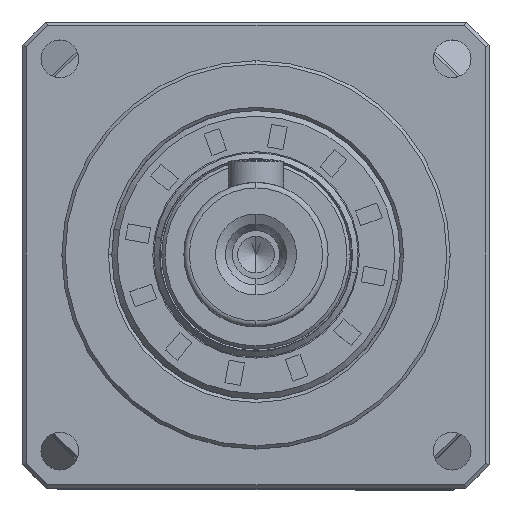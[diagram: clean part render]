
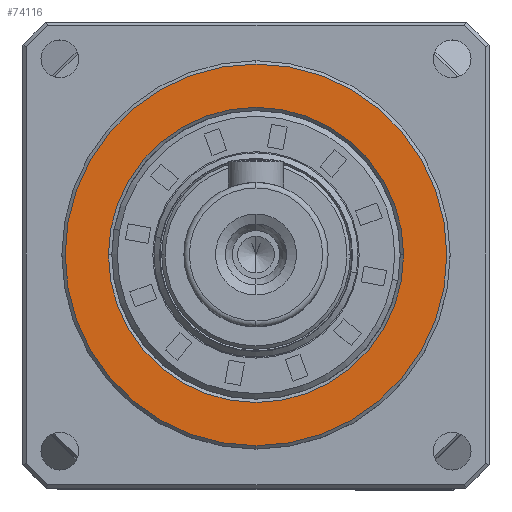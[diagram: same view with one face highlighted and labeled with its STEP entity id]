
A CAD part, top view. The second image highlights one B-rep face of the part: STEP entity #74116.
In plain terms, the highlighted planar face has unit normal (0, 0, 1).
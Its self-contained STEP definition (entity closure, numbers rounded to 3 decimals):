
#501 = FACE_BOUND ( 'NONE', #54789, .T. ) ;
#3146 = ORIENTED_EDGE ( 'NONE', *, *, #62744, .F. ) ;
#4900 = EDGE_CURVE ( 'NONE', #50211, #42219, #47875, .T. ) ;
#6179 = DIRECTION ( 'NONE',  ( 0., 0., -1. ) ) ;
#11037 = PLANE ( 'NONE',  #44785 ) ;
#11074 = CIRCLE ( 'NONE', #32159, 17.2 ) ;
#16577 = AXIS2_PLACEMENT_3D ( 'NONE', #42839, #6179, #48954 ) ;
#16729 = FACE_OUTER_BOUND ( 'NONE', #52545, .T. ) ;
#18002 = DIRECTION ( 'NONE',  ( 0., 0., 1. ) ) ;
#19356 = DIRECTION ( 'NONE',  ( 0., 0., -1. ) ) ;
#20344 = EDGE_CURVE ( 'NONE', #42219, #50211, #27204, .T. ) ;
#20585 = CARTESIAN_POINT ( 'NONE',  ( 50.798, 51.889, 98.402 ) ) ;
#26743 = DIRECTION ( 'NONE',  ( 0., 1., 0. ) ) ;
#27204 = CIRCLE ( 'NONE', #16577, 13.3 ) ;
#28292 = CARTESIAN_POINT ( 'NONE',  ( 50.798, 34.689, 98.402 ) ) ;
#32159 = AXIS2_PLACEMENT_3D ( 'NONE', #20585, #63326, #26743 ) ;
#34552 = DIRECTION ( 'NONE',  ( 0., 0., -1. ) ) ;
#35108 = EDGE_CURVE ( 'NONE', #63338, #77599, #11074, .T. ) ;
#42219 = VERTEX_POINT ( 'NONE', #48183 ) ;
#42839 = CARTESIAN_POINT ( 'NONE',  ( 50.798, 51.889, 98.402 ) ) ;
#44785 = AXIS2_PLACEMENT_3D ( 'NONE', #54652, #18002, #60776 ) ;
#45753 = AXIS2_PLACEMENT_3D ( 'NONE', #71148, #34552, #77257 ) ;
#47875 = CIRCLE ( 'NONE', #66537, 13.3 ) ;
#48183 = CARTESIAN_POINT ( 'NONE',  ( 64.098, 51.889, 98.402 ) ) ;
#48954 = DIRECTION ( 'NONE',  ( 1., 0., 0. ) ) ;
#50211 = VERTEX_POINT ( 'NONE', #59183 ) ;
#50380 = CARTESIAN_POINT ( 'NONE',  ( 50.798, 69.089, 98.402 ) ) ;
#52545 = EDGE_LOOP ( 'NONE', ( #3146, #78785 ) ) ;
#54652 = CARTESIAN_POINT ( 'NONE',  ( 50.798, 51.889, 98.402 ) ) ;
#54789 = EDGE_LOOP ( 'NONE', ( #71915, #56604 ) ) ;
#55947 = CARTESIAN_POINT ( 'NONE',  ( 50.798, 51.889, 98.402 ) ) ;
#56604 = ORIENTED_EDGE ( 'NONE', *, *, #4900, .T. ) ;
#59183 = CARTESIAN_POINT ( 'NONE',  ( 37.498, 51.889, 98.402 ) ) ;
#60776 = DIRECTION ( 'NONE',  ( 1., 0., 0. ) ) ;
#62116 = DIRECTION ( 'NONE',  ( 1., 0., 0. ) ) ;
#62744 = EDGE_CURVE ( 'NONE', #77599, #63338, #69194, .T. ) ;
#63326 = DIRECTION ( 'NONE',  ( 0., 0., -1. ) ) ;
#63338 = VERTEX_POINT ( 'NONE', #28292 ) ;
#66537 = AXIS2_PLACEMENT_3D ( 'NONE', #55947, #19356, #62116 ) ;
#69194 = CIRCLE ( 'NONE', #45753, 17.2 ) ;
#71148 = CARTESIAN_POINT ( 'NONE',  ( 50.798, 51.889, 98.402 ) ) ;
#71915 = ORIENTED_EDGE ( 'NONE', *, *, #20344, .T. ) ;
#74116 = ADVANCED_FACE ( 'NONE', ( #16729, #501 ), #11037, .T. ) ;
#77257 = DIRECTION ( 'NONE',  ( 0., 1., 0. ) ) ;
#77599 = VERTEX_POINT ( 'NONE', #50380 ) ;
#78785 = ORIENTED_EDGE ( 'NONE', *, *, #35108, .F. ) ;
